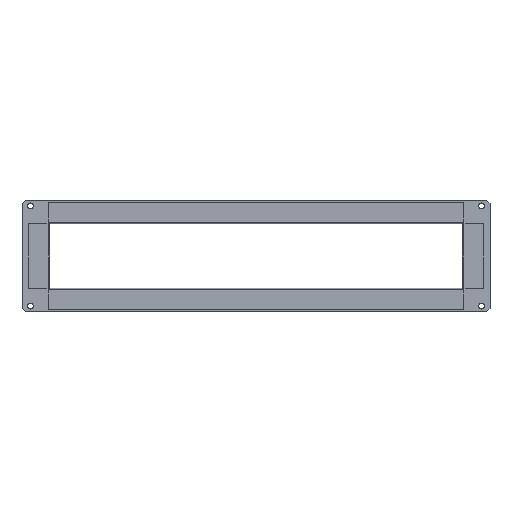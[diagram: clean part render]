
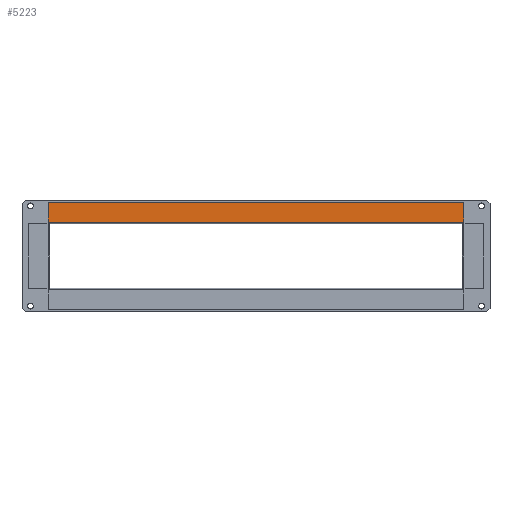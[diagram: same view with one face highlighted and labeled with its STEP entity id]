
A CAD part, top view. The second image highlights one B-rep face of the part: STEP entity #5223.
In plain terms, the highlighted planar face has unit normal (0, 0, 1) as drawn and (0, 0, -1) by its records, which use the part's own axes.
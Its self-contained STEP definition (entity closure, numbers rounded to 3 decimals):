
#98 = LINE ( 'NONE', #5637, #2624 ) ;
#118 = EDGE_CURVE ( 'NONE', #1817, #2062, #486, .T. ) ;
#230 = CARTESIAN_POINT ( 'NONE',  ( -250.8, 0., 0. ) ) ;
#342 = DIRECTION ( 'NONE',  ( -1., 0., 0. ) ) ;
#350 = DIRECTION ( 'NONE',  ( 0., -1., 0. ) ) ;
#372 = ORIENTED_EDGE ( 'NONE', *, *, #118, .F. ) ;
#486 = LINE ( 'NONE', #1287, #3002 ) ;
#511 = CARTESIAN_POINT ( 'NONE',  ( 250.8, 1.8, 0. ) ) ;
#531 = VERTEX_POINT ( 'NONE', #511 ) ;
#905 = ORIENTED_EDGE ( 'NONE', *, *, #1658, .F. ) ;
#915 = CARTESIAN_POINT ( 'NONE',  ( 250.8, 0., 0. ) ) ;
#1019 = EDGE_CURVE ( 'NONE', #1817, #531, #3435, .T. ) ;
#1287 = CARTESIAN_POINT ( 'NONE',  ( 250.8, 25., 0. ) ) ;
#1409 = DIRECTION ( 'NONE',  ( 0., -1., 0. ) ) ;
#1455 = ORIENTED_EDGE ( 'NONE', *, *, #1019, .T. ) ;
#1658 = EDGE_CURVE ( 'NONE', #2062, #3901, #5687, .T. ) ;
#1737 = DIRECTION ( 'NONE',  ( -1., 0., 0. ) ) ;
#1817 = VERTEX_POINT ( 'NONE', #2959 ) ;
#1926 = VECTOR ( 'NONE', #350, 1000. ) ;
#2062 = VERTEX_POINT ( 'NONE', #5411 ) ;
#2098 = VECTOR ( 'NONE', #1409, 1000. ) ;
#2224 = EDGE_LOOP ( 'NONE', ( #905, #372, #1455, #3064 ) ) ;
#2270 = AXIS2_PLACEMENT_3D ( 'NONE', #6254, #3379, #342 ) ;
#2624 = VECTOR ( 'NONE', #5655, 1000. ) ;
#2856 = PLANE ( 'NONE',  #2270 ) ;
#2959 = CARTESIAN_POINT ( 'NONE',  ( 250.8, 25., 0. ) ) ;
#3002 = VECTOR ( 'NONE', #1737, 1000. ) ;
#3064 = ORIENTED_EDGE ( 'NONE', *, *, #5051, .T. ) ;
#3379 = DIRECTION ( 'NONE',  ( 0., 0., -1. ) ) ;
#3435 = LINE ( 'NONE', #915, #2098 ) ;
#3901 = VERTEX_POINT ( 'NONE', #4131 ) ;
#4131 = CARTESIAN_POINT ( 'NONE',  ( -250.8, 1.8, 0. ) ) ;
#4212 = FACE_OUTER_BOUND ( 'NONE', #2224, .T. ) ;
#5051 = EDGE_CURVE ( 'NONE', #531, #3901, #98, .T. ) ;
#5223 = ADVANCED_FACE ( 'NONE', ( #4212 ), #2856, .T. ) ;
#5411 = CARTESIAN_POINT ( 'NONE',  ( -250.8, 25., 0. ) ) ;
#5637 = CARTESIAN_POINT ( 'NONE',  ( 250.8, 1.8, 0. ) ) ;
#5655 = DIRECTION ( 'NONE',  ( -1., 0., 0. ) ) ;
#5687 = LINE ( 'NONE', #230, #1926 ) ;
#6254 = CARTESIAN_POINT ( 'NONE',  ( 250.8, 0., 0. ) ) ;
